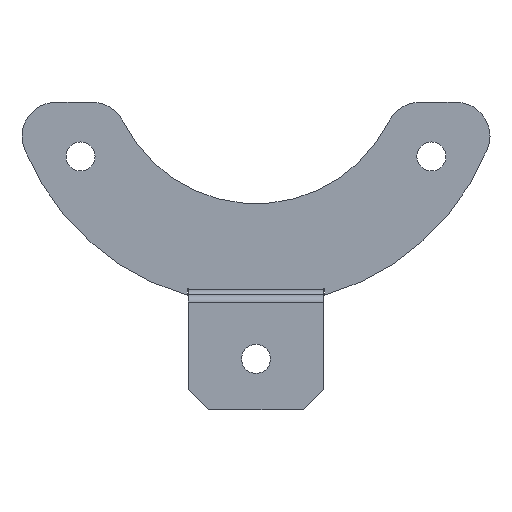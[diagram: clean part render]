
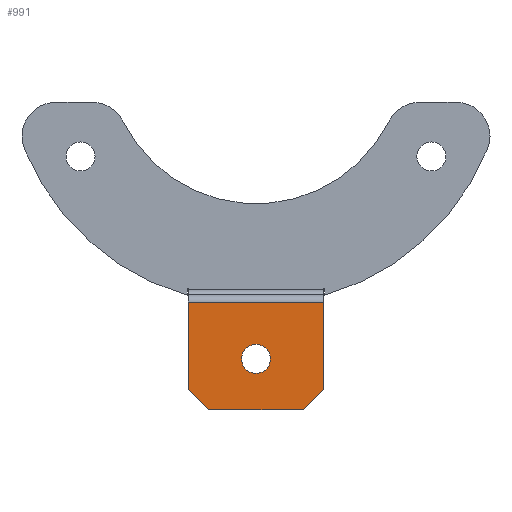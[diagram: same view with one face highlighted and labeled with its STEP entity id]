
A CAD part, top view. The second image highlights one B-rep face of the part: STEP entity #991.
In plain terms, the highlighted planar face has unit normal (0, 0, 1).
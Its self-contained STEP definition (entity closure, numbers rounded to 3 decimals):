
#21 = LINE ( 'NONE', #423, #1290 ) ;
#30 = DIRECTION ( 'NONE',  ( 0., 0., 1. ) ) ;
#57 = CARTESIAN_POINT ( 'NONE',  ( 0., -0.977, 4.65 ) ) ;
#64 = LINE ( 'NONE', #57, #1039 ) ;
#121 = AXIS2_PLACEMENT_3D ( 'NONE', #1049, #30, #142 ) ;
#125 = LINE ( 'NONE', #244, #539 ) ;
#126 = LINE ( 'NONE', #525, #1127 ) ;
#134 = CARTESIAN_POINT ( 'NONE',  ( -10., -13.877, 4.65 ) ) ;
#142 = DIRECTION ( 'NONE',  ( 1., 0., 0. ) ) ;
#168 = DIRECTION ( 'NONE',  ( -1., 0., 0. ) ) ;
#212 = EDGE_CURVE ( 'NONE', #274, #595, #64, .T. ) ;
#236 = EDGE_LOOP ( 'NONE', ( #773, #693, #755, #951, #749, #620 ) ) ;
#244 = CARTESIAN_POINT ( 'NONE',  ( 10., -16.877, 4.65 ) ) ;
#247 = CARTESIAN_POINT ( 'NONE',  ( 7., -16.877, 4.65 ) ) ;
#274 = VERTEX_POINT ( 'NONE', #1064 ) ;
#298 = AXIS2_PLACEMENT_3D ( 'NONE', #338, #742, #478 ) ;
#325 = PLANE ( 'NONE',  #121 ) ;
#331 = DIRECTION ( 'NONE',  ( 0., 0., 1. ) ) ;
#338 = CARTESIAN_POINT ( 'NONE',  ( 0., -9.377, 4.65 ) ) ;
#349 = LINE ( 'NONE', #1045, #916 ) ;
#423 = CARTESIAN_POINT ( 'NONE',  ( 11.938, -11.938, 4.65 ) ) ;
#433 = EDGE_CURVE ( 'NONE', #1059, #892, #443, .T. ) ;
#443 = CIRCLE ( 'NONE', #1022, 2.15 ) ;
#478 = DIRECTION ( 'NONE',  ( 1., 0., 0. ) ) ;
#490 = VERTEX_POINT ( 'NONE', #247 ) ;
#525 = CARTESIAN_POINT ( 'NONE',  ( -10., -0.227, 4.65 ) ) ;
#538 = DIRECTION ( 'NONE',  ( 0.707, -0.707, 0. ) ) ;
#539 = VECTOR ( 'NONE', #942, 1000. ) ;
#545 = VERTEX_POINT ( 'NONE', #134 ) ;
#551 = DIRECTION ( 'NONE',  ( -1., 0., 0. ) ) ;
#552 = EDGE_CURVE ( 'NONE', #892, #1059, #1272, .T. ) ;
#595 = VERTEX_POINT ( 'NONE', #1098 ) ;
#620 = ORIENTED_EDGE ( 'NONE', *, *, #212, .T. ) ;
#628 = CARTESIAN_POINT ( 'NONE',  ( 2.15, -9.377, 4.65 ) ) ;
#640 = CARTESIAN_POINT ( 'NONE',  ( -10., -16.877, 4.65 ) ) ;
#682 = CARTESIAN_POINT ( 'NONE',  ( -2.15, -9.377, 4.65 ) ) ;
#687 = ORIENTED_EDGE ( 'NONE', *, *, #433, .F. ) ;
#693 = ORIENTED_EDGE ( 'NONE', *, *, #1132, .T. ) ;
#717 = EDGE_CURVE ( 'NONE', #545, #595, #126, .T. ) ;
#719 = ORIENTED_EDGE ( 'NONE', *, *, #552, .F. ) ;
#742 = DIRECTION ( 'NONE',  ( 0., 0., 1. ) ) ;
#743 = FACE_BOUND ( 'NONE', #861, .T. ) ;
#749 = ORIENTED_EDGE ( 'NONE', *, *, #1122, .F. ) ;
#755 = ORIENTED_EDGE ( 'NONE', *, *, #1294, .F. ) ;
#773 = ORIENTED_EDGE ( 'NONE', *, *, #717, .F. ) ;
#826 = VECTOR ( 'NONE', #168, 1000. ) ;
#851 = VERTEX_POINT ( 'NONE', #1020 ) ;
#861 = EDGE_LOOP ( 'NONE', ( #719, #687 ) ) ;
#863 = LINE ( 'NONE', #640, #826 ) ;
#892 = VERTEX_POINT ( 'NONE', #628 ) ;
#916 = VECTOR ( 'NONE', #538, 1000. ) ;
#942 = DIRECTION ( 'NONE',  ( 0., -1., 0. ) ) ;
#950 = FACE_OUTER_BOUND ( 'NONE', #236, .T. ) ;
#951 = ORIENTED_EDGE ( 'NONE', *, *, #982, .T. ) ;
#982 = EDGE_CURVE ( 'NONE', #490, #1188, #21, .T. ) ;
#991 = ADVANCED_FACE ( 'NONE', ( #743, #950 ), #325, .T. ) ;
#1020 = CARTESIAN_POINT ( 'NONE',  ( -7., -16.877, 4.65 ) ) ;
#1022 = AXIS2_PLACEMENT_3D ( 'NONE', #1151, #331, #1056 ) ;
#1039 = VECTOR ( 'NONE', #551, 1000. ) ;
#1040 = DIRECTION ( 'NONE',  ( 0., 1., 0. ) ) ;
#1045 = CARTESIAN_POINT ( 'NONE',  ( -11.938, -11.938, 4.65 ) ) ;
#1049 = CARTESIAN_POINT ( 'NONE',  ( 0., 0., 4.65 ) ) ;
#1056 = DIRECTION ( 'NONE',  ( 1., 0., 0. ) ) ;
#1059 = VERTEX_POINT ( 'NONE', #682 ) ;
#1064 = CARTESIAN_POINT ( 'NONE',  ( 10., -0.977, 4.65 ) ) ;
#1098 = CARTESIAN_POINT ( 'NONE',  ( -10., -0.977, 4.65 ) ) ;
#1122 = EDGE_CURVE ( 'NONE', #274, #1188, #125, .T. ) ;
#1127 = VECTOR ( 'NONE', #1040, 1000. ) ;
#1132 = EDGE_CURVE ( 'NONE', #545, #851, #349, .T. ) ;
#1151 = CARTESIAN_POINT ( 'NONE',  ( 0., -9.377, 4.65 ) ) ;
#1158 = DIRECTION ( 'NONE',  ( 0.707, 0.707, 0. ) ) ;
#1188 = VERTEX_POINT ( 'NONE', #1279 ) ;
#1272 = CIRCLE ( 'NONE', #298, 2.15 ) ;
#1279 = CARTESIAN_POINT ( 'NONE',  ( 10., -13.877, 4.65 ) ) ;
#1290 = VECTOR ( 'NONE', #1158, 1000. ) ;
#1294 = EDGE_CURVE ( 'NONE', #490, #851, #863, .T. ) ;
